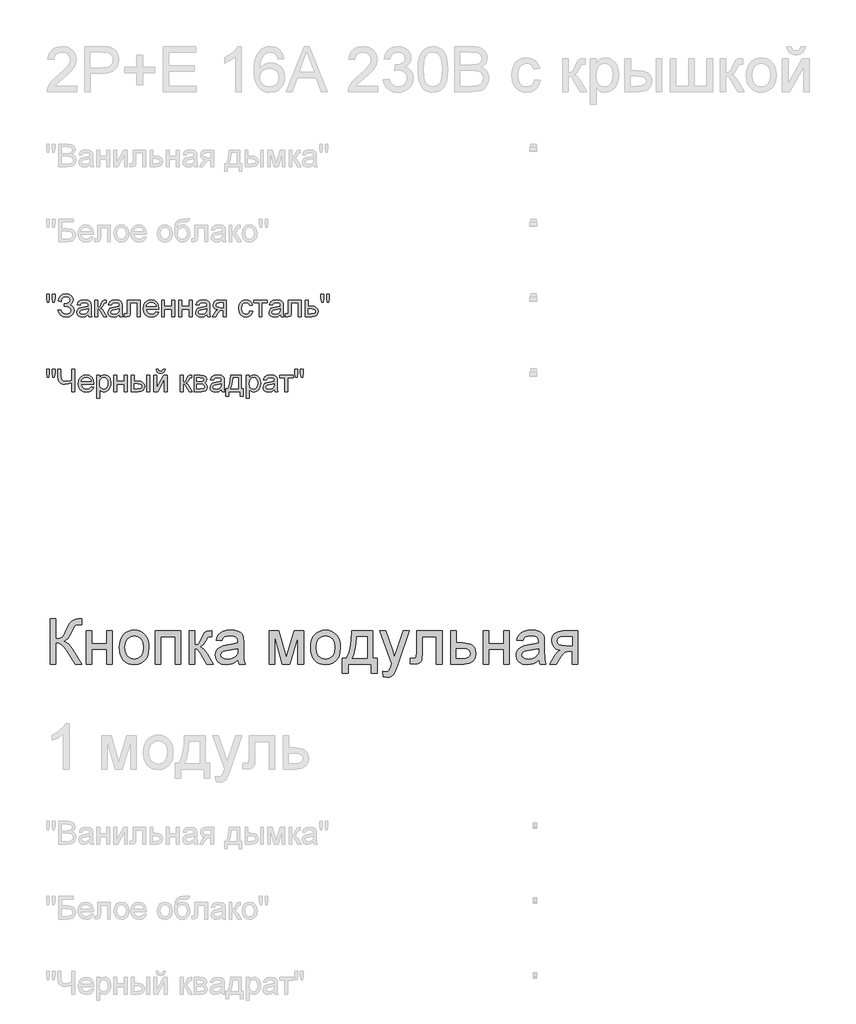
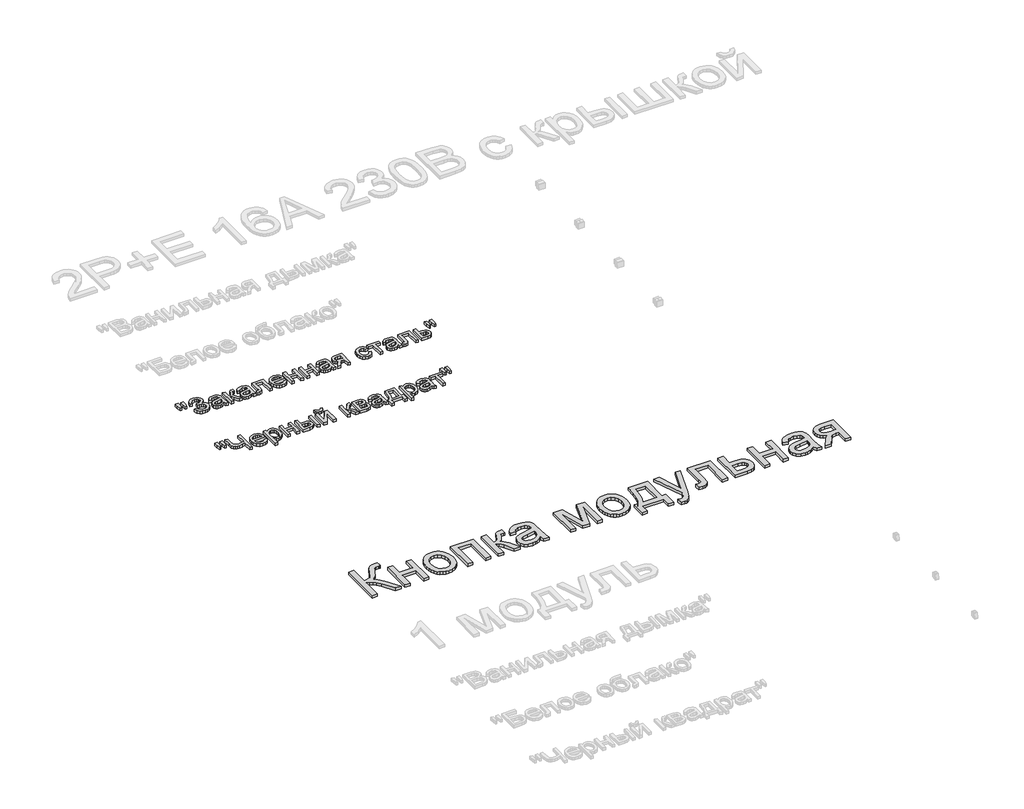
# One storey, part 46 of 168: 3 proxies.
"""IFC4 building model written with IfcOpenShell, lengths in millimetres."""

from ifc_helpers import new_model, si_unit, origin, origin_with_axes, place, context, project, spatial, polyline, outline, extrude, element, save

model = new_model("IFC4")

# Units and contexts
model_context = context("Model", 3, world=origin())
ifc_project = project(units=[si_unit("LENGTHUNIT", "METRE", prefix="MILLI")], contexts=[model_context])

# Site, building, storey
site = spatial("IfcSite", under=ifc_project)
building = spatial("IfcBuilding", under=site)
storey = spatial("IfcBuildingStorey", under=building, Name="Этаж 01", Elevation=0.0)

# Proxies
placement = place(None, origin())
element("IfcBuildingElementProxy", 1, Name="300 мм Arial 2", ObjectType="300 мм Arial 2", at=placement, inside=storey, context=model_context, shape_type="SweptSolid", body=[
    extrude(outline(polyline([(41999.0945017, -38481.2692868), (42036.765618, -38481.2692868), (42036.765618, -38613.1181939), (42062.2690373, -38610.6257934), (42078.8881064, -38603.1485918), (42092.3249963, -38585.5546354), (42108.2818778, -38552.7119703), (42129.0672106, -38510.5894818), (42139.0919949, -38499.1759429), (42152.6116582, -38489.7305727), (42168.6605103, -38483.3846083), (42186.2728608, -38481.2692868), (42210.9945309, -38481.7107452), (42210.9945309, -38519.3818615), (42202.6803978, -38519.1611323), (42194.3662647, -38518.9404031), (42177.1125991, -38521.2028774), (42164.9357051, -38527.9903002), (42154.4510682, -38542.2457275), (42142.5684798, -38566.7650625), (42127.9911557, -38597.2992681), (42115.8970351, -38614.0011107), (42089.8877781, -38629.5993073), (42104.4788977, -38635.807316), (42118.9688498, -38646.6322437), (42147.6452513, -38682.1328562), (42210.9945309, -38782.6382173), (42167.2901499, -38782.6382173), (42113.7265314, -38697.7310528), (42093.0423662, -38670.4985881), (42076.0186268, -38653.4012724), (42058.6086114, -38644.3789664), (42036.765618, -38641.3715311), (42036.765618, -38782.6382173), (41999.0945017, -38782.6382173), (41999.0945017, -38481.2692868)])), origin_with_axes(), (0.0, 0.0, 1.0), 20.0),
    extrude(outline(polyline([(42239.2478681, -38561.320409), (42276.9189844, -38561.320409), (42276.9189844, -38646.0804207), (42375.8056647, -38646.0804207), (42375.8056647, -38561.320409), (42413.476781, -38561.320409), (42413.476781, -38782.6382173), (42375.8056647, -38782.6382173), (42375.8056647, -38683.751537), (42276.9189844, -38683.751537), (42276.9189844, -38782.6382173), (42239.2478681, -38782.6382173), (42239.2478681, -38561.320409)])), origin_with_axes(), (0.0, 0.0, 1.0), 20.0),
    extrude(outline(polyline([(42460.5656764, -38671.9793131), (42462.602823, -38643.3167072), (42468.7142626, -38618.6180297), (42478.8999953, -38597.8832808), (42493.1600212, -38581.1124603), (42507.516616, -38570.3932987), (42523.363133, -38562.7367547), (42540.699572, -38558.1428282), (42559.5259331, -38556.6115194), (42580.3089666, -38558.4762213), (42599.1008387, -38564.0703269), (42615.9015496, -38573.3938362), (42630.7110992, -38586.4467493), (42642.798322, -38602.7876076), (42651.4320526, -38621.9749529), (42656.6122909, -38644.0087852), (42658.339037, -38668.8891044), (42655.2856165, -38706.9464968), (42646.1253548, -38735.9172039), (42631.1249664, -38757.6130446), (42610.5511658, -38773.8458376), (42586.1146043, -38783.9717895), (42559.5259331, -38787.3471068), (42538.439397, -38785.4893027), (42519.4727809, -38779.9158905), (42502.6260848, -38770.6268701), (42487.8993086, -38757.6222416), (42475.9408445, -38741.1227341), (42467.3990845, -38721.3490769), (42462.2740284, -38698.3012699), (42460.5656764, -38671.9793131)]), holes=[polyline([(42498.2367927, -38671.9057367), (42502.5961944, -38705.9992006), (42515.6743993, -38730.2886094), (42535.356086, -38744.8291452), (42559.5259331, -38749.6759905), (42583.5854156, -38744.8015541), (42603.2303141, -38730.1782448), (42616.3085191, -38705.5669393), (42620.6679207, -38670.7285143), (42616.2809279, -38637.6283318), (42603.1199495, -38613.6700169), (42583.4474598, -38599.129481), (42559.5259331, -38594.2826358), (42535.356086, -38599.1110869), (42515.6743993, -38613.5964405), (42502.5961944, -38637.8306669), (42498.2367927, -38671.9057367)])]), origin_with_axes(), (0.0, 0.0, 1.0), 20.0),
    extrude(outline(polyline([(42700.7190429, -38561.320409), (42870.2390662, -38561.320409), (42870.2390662, -38782.6382173), (42832.5679499, -38782.6382173), (42832.5679499, -38598.9915253), (42738.3901592, -38598.9915253), (42738.3901592, -38782.6382173), (42700.7190429, -38782.6382173), (42700.7190429, -38561.320409)])), origin_with_axes(), (0.0, 0.0, 1.0), 20.0),
    extrude(outline(polyline([(42926.7457407, -38561.320409), (42964.416857, -38561.320409), (42964.416857, -38655.4981997), (42979.7391421, -38653.8059426), (42989.6535619, -38648.729171), (42998.4275475, -38635.4854192), (43010.32853, -38609.2922212), (43027.5086192, -38575.2631366), (43042.6653574, -38564.1898885), (43070.2197188, -38561.320409), (43077.4302059, -38561.320409), (43077.4302059, -38599.2122545), (43067.2766629, -38598.9915253), (43048.8825631, -38602.9646508), (43035.9331169, -38627.7598973), (43020.7395905, -38654.5784948), (42999.4392229, -38667.711882), (43011.3769937, -38673.0139812), (43023.2043998, -38682.3719795), (43046.5281183, -38713.255673), (43086.847985, -38782.6382173), (43044.0265208, -38782.6382173), (43004.5159945, -38714.727201), (42984.6503667, -38685.9956171), (42975.3613464, -38680.7808899), (42964.416857, -38679.0426474), (42964.416857, -38782.6382173), (42926.7457407, -38782.6382173), (42926.7457407, -38561.320409)])), origin_with_axes(), (0.0, 0.0, 1.0), 20.0),
    extrude(outline(polyline([(43251.6591188, -38754.3848801), (43233.6604922, -38769.8175297), (43215.1284367, -38779.9158905), (43195.639888, -38785.4893027), (43174.7717818, -38787.3471068), (43143.2902801, -38782.8773406), (43120.0677292, -38769.4680419), (43105.7479225, -38749.1057734), (43100.9746536, -38723.7770981), (43102.7772754, -38708.1605074), (43108.1851407, -38693.9786564), (43116.526865, -38681.8385506), (43127.1310635, -38672.3471951), (43153.5082025, -38659.9863601), (43186.1025473, -38654.3209774), (43224.6197922, -38648.361289), (43251.4383896, -38641.3715311), (43251.6591188, -38632.9838216), (43249.0655508, -38616.1716145), (43241.2848466, -38605.1719428), (43223.8840282, -38597.0049625), (43199.6406047, -38594.2826358), (43177.199803, -38596.0944546), (43161.52803, -38601.5299111), (43150.8410581, -38611.5822866), (43143.3546595, -38627.2448625), (43105.6835431, -38622.535973), (43112.2226456, -38601.9345812), (43121.9807155, -38585.7477735), (43135.8682609, -38573.3685443), (43154.7957895, -38564.1898885), (43177.9447641, -38558.5061117), (43204.4966471, -38556.6115194), (43229.9632782, -38558.2853825), (43250.1508027, -38563.3069718), (43265.3719202, -38570.8577497), (43275.9393305, -38580.1191789), (43282.9474825, -38591.569506), (43287.4908252, -38605.6869776), (43289.3302351, -38638.6492044), (43289.3302351, -38685.5173706), (43291.2432215, -38750.9635775), (43298.7480142, -38782.6382173), (43261.0768979, -38782.6382173), (43251.6591188, -38754.3848801)]), holes=[polyline([(43251.6591188, -38679.0426474), (43190.8850132, -38690.5941421), (43158.4746095, -38696.7009832), (43143.7961178, -38706.6337971), (43138.6457699, -38721.1283477), (43141.4508701, -38732.3303544), (43149.8661708, -38741.5090102), (43163.7077308, -38747.6342454), (43182.7916093, -38749.6759905), (43203.0251191, -38747.4227133), (43220.904184, -38740.6628816), (43235.3987346, -38730.7024766), (43245.4787013, -38718.8474793), (43249.9484676, -38706.6337971), (43251.4383896, -38689.7112253), (43251.6591188, -38679.0426474)])]), origin_with_axes(), (0.0, 0.0, 1.0), 20.0),
    extrude(outline(polyline([(43458.8502585, -38561.320409), (43523.6710661, -38561.320409), (43573.629441, -38738.4923779), (43627.4873651, -38561.320409), (43689.5858459, -38561.320409), (43689.5858459, -38782.6382173), (43651.9147296, -38782.6382173), (43651.9147296, -38604.4361788), (43597.7624999, -38782.6382173), (43548.3191597, -38782.6382173), (43496.5213748, -38595.9013165), (43496.5213748, -38782.6382173), (43458.8502585, -38782.6382173), (43458.8502585, -38561.320409)])), origin_with_axes(), (0.0, 0.0, 1.0), 20.0),
    extrude(outline(polyline([(43736.6747413, -38671.9793131), (43738.7118878, -38643.3167072), (43744.8233275, -38618.6180297), (43755.0090602, -38597.8832808), (43769.269086, -38581.1124603), (43783.6256809, -38570.3932987), (43799.4721979, -38562.7367547), (43816.8086369, -38558.1428282), (43835.634998, -38556.6115194), (43856.4180314, -38558.4762213), (43875.2099036, -38564.0703269), (43892.0106145, -38573.3938362), (43906.820164, -38586.4467493), (43918.9073869, -38602.7876076), (43927.5411174, -38621.9749529), (43932.7213558, -38644.0087852), (43934.4481019, -38668.8891044), (43931.3946813, -38706.9464968), (43922.2344196, -38735.9172039), (43907.2340313, -38757.6130446), (43886.6602307, -38773.8458376), (43862.2236692, -38783.9717895), (43835.634998, -38787.3471068), (43814.5484619, -38785.4893027), (43795.5818458, -38779.9158905), (43778.7351496, -38770.6268701), (43764.0083735, -38757.6222416), (43752.0499094, -38741.1227341), (43743.5081493, -38721.3490769), (43738.3830933, -38698.3012699), (43736.6747413, -38671.9793131)]), holes=[polyline([(43774.3458576, -38671.9057367), (43778.7052592, -38705.9992006), (43791.7834642, -38730.2886094), (43811.4651509, -38744.8291452), (43835.634998, -38749.6759905), (43859.6944805, -38744.8015541), (43879.339379, -38730.1782448), (43892.4175839, -38705.5669393), (43896.7769856, -38670.7285143), (43892.3899928, -38637.6283318), (43879.2290144, -38613.6700169), (43859.5565247, -38599.129481), (43835.634998, -38594.2826358), (43811.4651509, -38599.1110869), (43791.7834642, -38613.5964405), (43778.7052592, -38637.8306669), (43774.3458576, -38671.9057367)])]), origin_with_axes(), (0.0, 0.0, 1.0), 20.0),
    extrude(outline(polyline([(44009.7903345, -38561.320409), (44151.0570206, -38561.320409), (44151.0570206, -38744.967101), (44179.3103579, -38744.967101), (44179.3103579, -38843.8537813), (44141.6392416, -38843.8537813), (44141.6392416, -38782.6382173), (43986.2458868, -38782.6382173), (43986.2458868, -38843.8537813), (43948.5747705, -38843.8537813), (43948.5747705, -38744.967101), (43972.1192182, -38744.967101), (43989.234928, -38714.0374222), (44001.218684, -38673.1197473), (44008.0704862, -38622.2140762), (44009.7903345, -38561.320409)]), holes=[polyline([(44042.7525613, -38598.9915253), (44039.6623525, -38645.1147304), (44033.9233934, -38684.8183948), (44025.5356839, -38718.1025183), (44014.499224, -38744.967101), (44113.3859043, -38744.967101), (44113.3859043, -38598.9915253), (44042.7525613, -38598.9915253)])]), origin_with_axes(), (0.0, 0.0, 1.0), 20.0),
    extrude(outline(polyline([(44221.6903637, -38867.398229), (44216.9814742, -38831.1250642), (44236.1113379, -38834.4360022), (44253.9904029, -38830.2789357), (44264.9532864, -38818.6906528), (44275.2539822, -38790.9523504), (44278.1970382, -38781.8288769), (44198.145916, -38561.320409), (44237.8771715, -38561.320409), (44280.3307537, -38684.1929954), (44295.11961, -38733.3420299), (44309.9084662, -38689.9319545), (44353.5392708, -38561.320409), (44392.9762207, -38561.320409), (44315.9417309, -38787.935718), (44295.9289503, -38837.0847526), (44285.6834368, -38852.7749197), (44274.0767598, -38863.6458326), (44260.5938847, -38869.991797), (44244.7197766, -38872.1071185), (44221.6903637, -38867.398229)])), origin_with_axes(), (0.0, 0.0, 1.0), 20.0),
    extrude(outline(polyline([(44443.008172, -38561.320409), (44612.5281954, -38561.320409), (44612.5281954, -38782.4174881), (44574.8570791, -38782.4174881), (44574.8570791, -38598.9915253), (44480.6792883, -38598.9915253), (44480.6792883, -38704.5736579), (44478.1409026, -38753.2812341), (44473.3860278, -38764.3084969), (44464.1981749, -38773.8458376), (44450.2554473, -38780.4401224), (44431.2359482, -38782.6382173), (44400.6281662, -38780.7252309), (44400.6281662, -38744.967101), (44417.4771616, -38744.967101), (44434.5100979, -38742.6494444), (44441.3159148, -38735.2918045), (44443.008172, -38702.4399423), (44443.008172, -38561.320409)])), origin_with_axes(), (0.0, 0.0, 1.0), 20.0),
    extrude(outline(polyline([(44669.0348699, -38561.320409), (44706.7059862, -38561.320409), (44706.7059862, -38641.3715311), (44750.1160616, -38641.3715311), (44787.7503897, -38646.0896177), (44802.8979308, -38651.987226), (44815.5990567, -38660.2438775), (44825.6422352, -38670.5744638), (44832.8159341, -38682.6938762), (44838.5548932, -38712.2991798), (44833.6712597, -38739.255733), (44819.0203593, -38762.0000374), (44807.7884621, -38771.0292411), (44793.6273046, -38777.4786723), (44756.5172083, -38782.6382173), (44669.0348699, -38782.6382173), (44669.0348699, -38561.320409)]), holes=[polyline([(44706.7059862, -38744.967101), (44741.8755049, -38744.967101), (44769.1631519, -38742.9897353), (44787.3089313, -38737.0576381), (44797.4900655, -38726.9316862), (44800.8837769, -38712.3727562), (44798.3729823, -38700.0671035), (44790.8405985, -38689.1961905), (44774.6997759, -38681.5810332), (44746.3636652, -38679.0426474), (44706.7059862, -38679.0426474), (44706.7059862, -38744.967101)])]), origin_with_axes(), (0.0, 0.0, 1.0), 20.0),
    extrude(outline(polyline([(44885.6437886, -38561.320409), (44923.3149049, -38561.320409), (44923.3149049, -38646.0804207), (45022.2015852, -38646.0804207), (45022.2015852, -38561.320409), (45059.8727015, -38561.320409), (45059.8727015, -38782.6382173), (45022.2015852, -38782.6382173), (45022.2015852, -38683.751537), (44923.3149049, -38683.751537), (44923.3149049, -38782.6382173), (44885.6437886, -38782.6382173), (44885.6437886, -38561.320409)])), origin_with_axes(), (0.0, 0.0, 1.0), 20.0),
    extrude(outline(polyline([(45257.6460621, -38754.3848801), (45239.6474355, -38769.8175297), (45221.11538, -38779.9158905), (45201.6268313, -38785.4893027), (45180.7587251, -38787.3471068), (45149.2772234, -38782.8773406), (45126.0546725, -38769.4680419), (45111.7348658, -38749.1057734), (45106.9615969, -38723.7770981), (45108.7642187, -38708.1605074), (45114.172084, -38693.9786564), (45122.5138083, -38681.8385506), (45133.1180068, -38672.3471951), (45159.4951458, -38659.9863601), (45192.0894906, -38654.3209774), (45230.6067355, -38648.361289), (45257.4253329, -38641.3715311), (45257.6460621, -38632.9838216), (45255.0524941, -38616.1716145), (45247.2717899, -38605.1719428), (45229.8709715, -38597.0049625), (45205.627548, -38594.2826358), (45183.1867463, -38596.0944546), (45167.5149733, -38601.5299111), (45156.8280014, -38611.5822866), (45149.3416028, -38627.2448625), (45111.6704864, -38622.535973), (45118.2095889, -38601.9345812), (45127.9676588, -38585.7477735), (45141.8552042, -38573.3685443), (45160.7827328, -38564.1898885), (45183.9317074, -38558.5061117), (45210.4835904, -38556.6115194), (45235.9502215, -38558.2853825), (45256.137746, -38563.3069718), (45271.3588635, -38570.8577497), (45281.9262738, -38580.1191789), (45288.9344258, -38591.569506), (45293.4777685, -38605.6869776), (45295.3171784, -38638.6492044), (45295.3171784, -38685.5173706), (45297.2301648, -38750.9635775), (45304.7349575, -38782.6382173), (45267.0638412, -38782.6382173), (45257.6460621, -38754.3848801)]), holes=[polyline([(45257.6460621, -38679.0426474), (45196.8719565, -38690.5941421), (45164.4615528, -38696.7009832), (45149.7830611, -38706.6337971), (45144.6327132, -38721.1283477), (45147.4378134, -38732.3303544), (45155.8531141, -38741.5090102), (45169.6946741, -38747.6342454), (45188.7785526, -38749.6759905), (45209.0120624, -38747.4227133), (45226.8911273, -38740.6628816), (45241.3856779, -38730.7024766), (45251.4656446, -38718.8474793), (45255.9354109, -38706.6337971), (45257.4253329, -38689.7112253), (45257.6460621, -38679.0426474)])]), origin_with_axes(), (0.0, 0.0, 1.0), 20.0),
    extrude(outline(polyline([(45516.6349867, -38561.320409), (45516.6349867, -38782.6382173), (45478.9638704, -38782.6382173), (45478.9638704, -38697.8782056), (45458.4360551, -38697.8782056), (45430.4770235, -38702.6606715), (45419.3118049, -38713.0901261), (45404.210249, -38734.8135579), (45374.1910782, -38782.6382173), (45330.63385, -38782.6382173), (45368.4521191, -38722.1584173), (45385.1539617, -38700.4533796), (45400.5314291, -38690.8148713), (45374.7796894, -38682.9238025), (45356.6798952, -38667.9326112), (45345.9745292, -38647.993407), (45342.4060738, -38625.2582997), (45347.2805103, -38599.4697719), (45361.9038196, -38579.0523211), (45385.760967, -38565.753387), (45418.3369176, -38561.320409), (45516.6349867, -38561.320409)]), holes=[polyline([(45478.9638704, -38598.9915253), (45429.2998011, -38598.9915253), (45403.649229, -38601.1712261), (45389.090299, -38607.7103286), (45382.3304674, -38617.1740929), (45380.0771901, -38628.1277793), (45383.3973251, -38642.4843742), (45393.3577302, -38652.4447792), (45411.761027, -38658.2665118), (45440.4098373, -38660.2070893), (45478.9638704, -38660.2070893), (45478.9638704, -38598.9915253)])]), origin_with_axes(), (0.0, 0.0, 1.0), 20.0),
])
element("IfcBuildingElementProxy", 2, Name="150", ObjectType="150", at=placement, inside=storey, context=model_context, shape_type="SweptSolid", body=[
    extrude(outline(polyline([(41980.1485789, -36370.3300622), (41975.550054, -36341.2305964), (41975.550054, -36316.1778325), (41994.3856121, -36316.1778325), (41994.3856121, -36341.2305964), (41990.2653338, -36370.3300622), (41980.1485789, -36370.3300622)])), origin_with_axes(), (0.0, 0.0, 1.0), 20.0),
    extrude(outline(polyline([(42017.7093306, -36370.3300622), (42013.2211703, -36341.2305964), (42013.2211703, -36316.1778325), (42032.0567284, -36316.1778325), (42032.0567284, -36341.2305964), (42027.6421445, -36370.3300622), (42017.7093306, -36370.3300622)])), origin_with_axes(), (0.0, 0.0, 1.0), 20.0),
    extrude(outline(polyline([(42050.8922866, -36424.4822919), (42069.7278447, -36419.7734024), (42081.2977335, -36440.172459), (42092.2284273, -36447.829003), (42106.2217387, -36450.3811843), (42120.398991, -36448.4635995), (42131.2193202, -36442.7108448), (42138.0757209, -36434.2449603), (42140.3611878, -36424.1879863), (42137.8641888, -36413.6527657), (42130.3731916, -36405.517975), (42118.5779752, -36400.3170433), (42103.1683181, -36398.5833994), (42093.2722924, -36398.5833994), (42093.2722924, -36379.7478413), (42114.591054, -36378.221131), (42127.6324708, -36370.4220327), (42133.2978535, -36356.1666054), (42131.4124583, -36347.2960508), (42125.7562726, -36339.6670979), (42116.8811195, -36334.4109839), (42105.3388219, -36332.6589459), (42086.1169876, -36338.0484171), (42075.117316, -36352.3406326), (42072.0822895, -36365.6211727), (42053.2467313, -36360.9122831), (42059.0983543, -36340.3108914), (42069.7002536, -36325.5956116), (42085.0524291, -36316.7664437), (42105.1548809, -36313.8233877), (42124.5468605, -36316.8814068), (42139.4598769, -36326.0554641), (42148.965028, -36339.3222085), (42152.1334117, -36354.6582892), (42147.2037929, -36373.3007093), (42132.4149367, -36387.2158458), (42142.8903765, -36392.0396984), (42151.5080123, -36400.1836861), (42157.2745625, -36410.948833), (42159.196746, -36423.6361633), (42155.508729, -36441.4738415), (42144.444678, -36456.1385376), (42127.2921799, -36465.9471913), (42105.3388219, -36469.2167425), (42086.2365493, -36466.4208393), (42070.7947025, -36458.0331298), (42059.0132816, -36444.053614), (42050.8922866, -36424.4822919)])), origin_with_axes(), (0.0, 0.0, 1.0), 20.0),
    extrude(outline(polyline([(42253.3745367, -36452.7356291), (42235.1091957, -36465.5011344), (42214.9308682, -36469.2167425), (42199.1901174, -36466.9818594), (42187.5788419, -36460.27721), (42180.4189386, -36450.0960758), (42178.0323041, -36437.4317381), (42181.6375477, -36422.5325173), (42191.110509, -36411.7167867), (42204.2990786, -36405.5363691), (42220.596251, -36402.7036778), (42253.2641721, -36396.2289547), (42253.3745367, -36392.0350999), (42252.0777527, -36383.6289963), (42248.1874006, -36378.1291605), (42239.4869914, -36374.0456704), (42227.3652797, -36372.684507), (42208.3089923, -36376.3081446), (42199.222307, -36389.1656204), (42180.3867489, -36386.8111756), (42188.5353351, -36368.4170758), (42204.9428721, -36357.6381334), (42229.7933008, -36353.8489488), (42252.6203786, -36357.196675), (42265.5146426, -36365.6027786), (42271.2903899, -36378.3866779), (42272.2100949, -36394.8677913), (42272.2100949, -36418.3018744), (42273.1665881, -36451.0249778), (42276.9189844, -36466.8622977), (42258.0834263, -36466.8622977), (42253.3745367, -36452.7356291)]), holes=[polyline([(42253.3745367, -36415.0645128), (42222.9874839, -36420.8402601), (42206.782282, -36423.8936807), (42199.4430362, -36428.8600876), (42196.8678623, -36436.1073629), (42202.4780627, -36446.2976942), (42218.940782, -36450.3811843), (42237.9970693, -36445.8746299), (42250.284328, -36434.9669288), (42253.2641721, -36420.3988017), (42253.3745367, -36415.0645128)])]), origin_with_axes(), (0.0, 0.0, 1.0), 20.0),
    extrude(outline(polyline([(42298.1089873, -36356.2033936), (42316.9445455, -36356.2033936), (42316.9445455, -36403.292289), (42329.5628979, -36399.9077746), (42339.900382, -36380.1892997), (42348.4904266, -36363.1747574), (42356.0687957, -36357.6381334), (42369.8459764, -36356.2033936), (42373.4512199, -36356.2033936), (42373.4512199, -36375.1493163), (42368.3744484, -36375.0389517), (42359.1773985, -36377.0255145), (42352.7026754, -36389.4231377), (42345.1059122, -36402.8324365), (42334.4557285, -36409.3991301), (42346.3383169, -36416.7291788), (42358.0001762, -36432.1710256), (42378.1601095, -36466.8622977), (42356.7493774, -36466.8622977), (42336.9941142, -36432.9067896), (42327.0613004, -36418.5409977), (42316.9445455, -36415.0645128), (42316.9445455, -36466.8622977), (42298.1089873, -36466.8622977), (42298.1089873, -36356.2033936)])), origin_with_axes(), (0.0, 0.0, 1.0), 20.0),
    extrude(outline(polyline([(42460.5656764, -36452.7356291), (42442.3003353, -36465.5011344), (42422.1220079, -36469.2167425), (42406.381257, -36466.9818594), (42394.7699816, -36460.27721), (42387.6100782, -36450.0960758), (42385.2234438, -36437.4317381), (42388.8286873, -36422.5325173), (42398.3016487, -36411.7167867), (42411.4902183, -36405.5363691), (42427.7873906, -36402.7036778), (42460.4553118, -36396.2289547), (42460.5656764, -36392.0350999), (42459.2688924, -36383.6289963), (42455.3785403, -36378.1291605), (42446.6781311, -36374.0456704), (42434.5564193, -36372.684507), (42415.500132, -36376.3081446), (42406.4134467, -36389.1656204), (42387.5778886, -36386.8111756), (42395.7264748, -36368.4170758), (42412.1340117, -36357.6381334), (42436.9844405, -36353.8489488), (42459.8115183, -36357.196675), (42472.7057822, -36365.6027786), (42478.4815296, -36378.3866779), (42479.4012346, -36394.8677913), (42479.4012346, -36418.3018744), (42480.3577277, -36451.0249778), (42484.1101241, -36466.8622977), (42465.2745659, -36466.8622977), (42460.5656764, -36452.7356291)]), holes=[polyline([(42460.5656764, -36415.0645128), (42430.1786236, -36420.8402601), (42413.9734217, -36423.8936807), (42406.6341759, -36428.8600876), (42404.0590019, -36436.1073629), (42409.6692024, -36446.2976942), (42426.1319217, -36450.3811843), (42445.188209, -36445.8746299), (42457.4754676, -36434.9669288), (42460.4553118, -36420.3988017), (42460.5656764, -36415.0645128)])]), origin_with_axes(), (0.0, 0.0, 1.0), 20.0),
    extrude(outline(polyline([(42514.7179061, -36356.2033936), (42599.4779178, -36356.2033936), (42599.4779178, -36466.7519331), (42580.6423596, -36466.7519331), (42580.6423596, -36375.0389517), (42533.5534643, -36375.0389517), (42533.5534643, -36427.830018), (42532.2842714, -36452.1838061), (42525.3129076, -36462.4661079), (42508.8317942, -36466.8622977), (42493.5279032, -36465.9058045), (42493.5279032, -36448.0267396), (42501.9524009, -36448.0267396), (42510.4688691, -36446.8679113), (42513.8717775, -36443.1890913), (42514.7179061, -36426.7631603), (42514.7179061, -36356.2033936)])), origin_with_axes(), (0.0, 0.0, 1.0), 20.0),
    extrude(outline(polyline([(42705.2072032, -36433.900071), (42723.6748794, -36436.2545157), (42717.0208138, -36450.1696522), (42706.4028197, -36460.5715156), (42692.0600204, -36467.0554358), (42674.2315392, -36469.2167425), (42652.1310283, -36465.4873388), (42635.1256831, -36454.2991276), (42624.2823613, -36436.3786759), (42620.6679207, -36412.4525506), (42624.3191495, -36387.7216835), (42635.2728359, -36369.2264162), (42652.0482549, -36357.6933157), (42673.1646814, -36353.8489488), (42693.6235189, -36357.6841186), (42709.971275, -36369.189628), (42720.6904367, -36387.6481071), (42724.2634906, -36412.342186), (42724.153126, -36417.4189576), (42639.5034789, -36417.4189576), (42642.763833, -36431.518035), (42650.3376036, -36441.8831103), (42661.2682974, -36448.2566658), (42674.5994212, -36450.3811843), (42693.0670974, -36446.444847), (42705.2072032, -36433.900071)]), holes=[polyline([(42639.5034789, -36398.5833994), (42705.4279324, -36398.5833994), (42702.8803496, -36388.6321915), (42697.8863515, -36381.5136749), (42686.9050739, -36374.8917989), (42673.091105, -36372.684507), (42660.3945777, -36374.445742), (42649.8961452, -36379.7294472), (42642.5982861, -36387.9654053), (42639.5034789, -36398.5833994)])]), origin_with_axes(), (0.0, 0.0, 1.0), 20.0),
    extrude(outline(polyline([(42743.0990487, -36356.2033936), (42761.9346069, -36356.2033936), (42761.9346069, -36398.5833994), (42811.377947, -36398.5833994), (42811.377947, -36356.2033936), (42830.2135052, -36356.2033936), (42830.2135052, -36466.8622977), (42811.377947, -36466.8622977), (42811.377947, -36417.4189576), (42761.9346069, -36417.4189576), (42761.9346069, -36466.8622977), (42743.0990487, -36466.8622977), (42743.0990487, -36356.2033936)])), origin_with_axes(), (0.0, 0.0, 1.0), 20.0),
    extrude(outline(polyline([(42858.4668424, -36356.2033936), (42877.3024005, -36356.2033936), (42877.3024005, -36398.5833994), (42926.7457407, -36398.5833994), (42926.7457407, -36356.2033936), (42945.5812988, -36356.2033936), (42945.5812988, -36466.8622977), (42926.7457407, -36466.8622977), (42926.7457407, -36417.4189576), (42877.3024005, -36417.4189576), (42877.3024005, -36466.8622977), (42858.4668424, -36466.8622977), (42858.4668424, -36356.2033936)])), origin_with_axes(), (0.0, 0.0, 1.0), 20.0),
    extrude(outline(polyline([(43044.4679792, -36452.7356291), (43026.2026381, -36465.5011344), (43006.0243107, -36469.2167425), (42990.2835598, -36466.9818594), (42978.6722843, -36460.27721), (42971.512381, -36450.0960758), (42969.1257465, -36437.4317381), (42972.7309901, -36422.5325173), (42982.2039515, -36411.7167867), (42995.392521, -36405.5363691), (43011.6896934, -36402.7036778), (43044.3576146, -36396.2289547), (43044.4679792, -36392.0350999), (43043.1711951, -36383.6289963), (43039.280843, -36378.1291605), (43030.5804338, -36374.0456704), (43018.4587221, -36372.684507), (42999.4024347, -36376.3081446), (42990.3157495, -36389.1656204), (42971.4801913, -36386.8111756), (42979.6287775, -36368.4170758), (42996.0363145, -36357.6381334), (43020.8867433, -36353.8489488), (43043.7138211, -36357.196675), (43056.608085, -36365.6027786), (43062.3838323, -36378.3866779), (43063.3035373, -36394.8677913), (43063.3035373, -36418.3018744), (43064.2600305, -36451.0249778), (43068.0124268, -36466.8622977), (43049.1768687, -36466.8622977), (43044.4679792, -36452.7356291)]), holes=[polyline([(43044.4679792, -36415.0645128), (43014.0809264, -36420.8402601), (42997.8757245, -36423.8936807), (42990.5364787, -36428.8600876), (42987.9613047, -36436.1073629), (42993.5715051, -36446.2976942), (43010.0342244, -36450.3811843), (43029.0905118, -36445.8746299), (43041.3777704, -36434.9669288), (43044.3576146, -36420.3988017), (43044.4679792, -36415.0645128)])]), origin_with_axes(), (0.0, 0.0, 1.0), 20.0),
    extrude(outline(polyline([(43173.9624415, -36356.2033936), (43173.9624415, -36466.8622977), (43155.1268833, -36466.8622977), (43155.1268833, -36424.4822919), (43144.8629756, -36424.4822919), (43130.8834598, -36426.8735249), (43117.7500726, -36442.949968), (43102.7404872, -36466.8622977), (43080.9618731, -36466.8622977), (43099.8710076, -36436.6223977), (43108.2219289, -36425.7698789), (43115.9106626, -36420.9506247), (43103.0347928, -36417.0050903), (43093.9848957, -36409.5094947), (43088.6322127, -36399.5398926), (43086.847985, -36388.172339), (43089.2852032, -36375.278075), (43096.5968579, -36365.0693497), (43108.5254316, -36358.4198826), (43124.8134069, -36356.2033936), (43173.9624415, -36356.2033936)]), holes=[polyline([(43155.1268833, -36375.0389517), (43130.2948486, -36375.0389517), (43117.4695626, -36376.1288021), (43110.1900976, -36379.3983534), (43105.6835431, -36389.6070787), (43107.3436107, -36396.7853762), (43112.3238132, -36401.7655787), (43135.8498668, -36405.6467337), (43155.1268833, -36405.6467337), (43155.1268833, -36375.0389517)])]), origin_with_axes(), (0.0, 0.0, 1.0), 20.0),
    extrude(outline(polyline([(43331.710241, -36426.8367367), (43350.5457991, -36429.1911814), (43345.2942837, -36445.9436078), (43335.4258491, -36458.6033469), (43321.8693976, -36466.5633936), (43305.5538311, -36469.2167425), (43285.518058, -36465.5149299), (43269.8508835, -36454.4094922), (43259.7387272, -36436.387873), (43256.3680084, -36411.9375159), (43257.8073467, -36395.1758924), (43262.1253616, -36380.6491522), (43269.391031, -36368.918315), (43279.6733328, -36360.5444011), (43291.974387, -36355.5228119), (43305.2963137, -36353.8489488), (43321.2118085, -36356.1482113), (43333.9359271, -36363.0459987), (43343.0639991, -36374.174429), (43348.1913544, -36389.1656204), (43329.3557962, -36391.5200651), (43320.6185988, -36377.4117906), (43305.4434665, -36372.684507), (43293.271171, -36375.0113606), (43283.6096701, -36381.9919214), (43277.3050924, -36394.0032686), (43275.2035665, -36411.4224811), (43277.2591072, -36429.0762183), (43283.4257291, -36441.1289522), (43292.9124861, -36448.0681263), (43304.9284317, -36450.3811843), (43314.6819031, -36448.9372475), (43322.678738, -36444.605437), (43328.4958721, -36437.2753883), (43331.710241, -36426.8367367)])), origin_with_axes(), (0.0, 0.0, 1.0), 20.0),
    extrude(outline(polyline([(43357.6091334, -36356.2033936), (43447.0780347, -36356.2033936), (43447.0780347, -36375.0389517), (43411.7613631, -36375.0389517), (43411.7613631, -36466.8622977), (43392.925805, -36466.8622977), (43392.925805, -36375.0389517), (43357.6091334, -36375.0389517), (43357.6091334, -36356.2033936)])), origin_with_axes(), (0.0, 0.0, 1.0), 20.0),
    extrude(outline(polyline([(43534.1924911, -36452.7356291), (43515.9271501, -36465.5011344), (43495.7488226, -36469.2167425), (43480.0080718, -36466.9818594), (43468.3967963, -36460.27721), (43461.236893, -36450.0960758), (43458.8502585, -36437.4317381), (43462.4555021, -36422.5325173), (43471.9284634, -36411.7167867), (43485.117033, -36405.5363691), (43501.4142054, -36402.7036778), (43534.0821265, -36396.2289547), (43534.1924911, -36392.0350999), (43532.8957071, -36383.6289963), (43529.005355, -36378.1291605), (43520.3049458, -36374.0456704), (43508.1832341, -36372.684507), (43489.1269467, -36376.3081446), (43480.0402614, -36389.1656204), (43461.2047033, -36386.8111756), (43469.3532895, -36368.4170758), (43485.7608265, -36357.6381334), (43510.6112552, -36353.8489488), (43533.438333, -36357.196675), (43546.332597, -36365.6027786), (43552.1083443, -36378.3866779), (43553.0280493, -36394.8677913), (43553.0280493, -36418.3018744), (43553.9845425, -36451.0249778), (43557.7369388, -36466.8622977), (43538.9013807, -36466.8622977), (43534.1924911, -36452.7356291)]), holes=[polyline([(43534.1924911, -36415.0645128), (43503.8054383, -36420.8402601), (43487.6002364, -36423.8936807), (43480.2609906, -36428.8600876), (43477.6858167, -36436.1073629), (43483.2960171, -36446.2976942), (43499.7587364, -36450.3811843), (43518.8150237, -36445.8746299), (43531.1022824, -36434.9669288), (43534.0821265, -36420.3988017), (43534.1924911, -36415.0645128)])]), origin_with_axes(), (0.0, 0.0, 1.0), 20.0),
    extrude(outline(polyline([(43588.3447208, -36356.2033936), (43673.1047325, -36356.2033936), (43673.1047325, -36466.7519331), (43654.2691744, -36466.7519331), (43654.2691744, -36375.0389517), (43607.180279, -36375.0389517), (43607.180279, -36427.830018), (43605.9110861, -36452.1838061), (43598.9397223, -36462.4661079), (43582.4586089, -36466.8622977), (43567.1547179, -36465.9058045), (43567.1547179, -36448.0267396), (43575.5792156, -36448.0267396), (43584.0956838, -36446.8679113), (43587.4985922, -36443.1890913), (43588.3447208, -36426.7631603), (43588.3447208, -36356.2033936)])), origin_with_axes(), (0.0, 0.0, 1.0), 20.0),
    extrude(outline(polyline([(43701.3580697, -36356.2033936), (43720.1936279, -36356.2033936), (43720.1936279, -36396.2289547), (43741.8986656, -36396.2289547), (43760.7158297, -36398.587998), (43774.6401632, -36405.6651278), (43783.2486019, -36416.8901272), (43786.1180814, -36431.692779), (43783.6762647, -36445.1710556), (43776.3508145, -36456.5432078), (43763.6542871, -36464.2825252), (43745.099239, -36466.8622977), (43701.3580697, -36466.8622977), (43701.3580697, -36356.2033936)]), holes=[polyline([(43720.1936279, -36448.0267396), (43737.7783873, -36448.0267396), (43760.4951005, -36444.0720081), (43765.5856676, -36439.0090322), (43767.2825233, -36431.7295672), (43762.260934, -36420.1412843), (43754.1905228, -36416.3337057), (43740.0224674, -36415.0645128), (43720.1936279, -36415.0645128), (43720.1936279, -36448.0267396)])]), origin_with_axes(), (0.0, 0.0, 1.0), 20.0),
    extrude(outline(polyline([(43809.5521645, -36370.3300622), (43804.9536396, -36341.2305964), (43804.9536396, -36316.1778325), (43823.7891977, -36316.1778325), (43823.7891977, -36341.2305964), (43819.6689194, -36370.3300622), (43809.5521645, -36370.3300622)])), origin_with_axes(), (0.0, 0.0, 1.0), 20.0),
    extrude(outline(polyline([(43847.1129162, -36370.3300622), (43842.6247559, -36341.2305964), (43842.6247559, -36316.1778325), (43861.460314, -36316.1778325), (43861.460314, -36341.2305964), (43857.0457301, -36370.3300622), (43847.1129162, -36370.3300622)])), origin_with_axes(), (0.0, 0.0, 1.0), 20.0),
])
element("IfcBuildingElementProxy", 3, Name="150", ObjectType="150", at=placement, inside=storey, context=model_context, shape_type="SweptSolid", body=[
    extrude(outline(polyline([(41980.1485789, -36870.3300622), (41975.550054, -36841.2305964), (41975.550054, -36816.1778325), (41994.3856121, -36816.1778325), (41994.3856121, -36841.2305964), (41990.2653338, -36870.3300622), (41980.1485789, -36870.3300622)])), origin_with_axes(), (0.0, 0.0, 1.0), 20.0),
    extrude(outline(polyline([(42017.7093306, -36870.3300622), (42013.2211703, -36841.2305964), (42013.2211703, -36816.1778325), (42032.0567284, -36816.1778325), (42032.0567284, -36841.2305964), (42027.6421445, -36870.3300622), (42017.7093306, -36870.3300622)])), origin_with_axes(), (0.0, 0.0, 1.0), 20.0),
    extrude(outline(polyline([(42163.9056355, -36966.8622977), (42145.0700773, -36966.8622977), (42145.0700773, -36906.5296505), (42120.0908899, -36914.6966308), (42098.4226404, -36917.4189576), (42083.7395502, -36915.556555), (42070.886673, -36909.9693472), (42060.926268, -36901.5172583), (42054.9205944, -36891.0602126), (42050.8922866, -36861.0594359), (42050.8922866, -36816.1778325), (42069.7278447, -36816.1778325), (42069.7278447, -36858.5210502), (42071.990319, -36878.8879171), (42078.7777418, -36890.8394834), (42088.7381468, -36896.6474204), (42100.5195677, -36898.5833994), (42122.2521966, -36896.2473488), (42145.0700773, -36889.2391968), (42145.0700773, -36816.1778325), (42163.9056355, -36816.1778325), (42163.9056355, -36966.8622977)])), origin_with_axes(), (0.0, 0.0, 1.0), 20.0),
    extrude(outline(polyline([(42271.9893657, -36933.900071), (42290.4570418, -36936.2545157), (42283.8029763, -36950.1696522), (42273.1849822, -36960.5715156), (42258.8421829, -36967.0554358), (42241.0137017, -36969.2167425), (42218.9131908, -36965.4873388), (42201.9078456, -36954.2991276), (42191.0645238, -36936.3786759), (42187.4500832, -36912.4525506), (42191.101312, -36887.7216835), (42202.0549984, -36869.2264162), (42218.8304174, -36857.6933157), (42239.9468439, -36853.8489488), (42260.4056814, -36857.6841186), (42276.7534375, -36869.189628), (42287.4725992, -36887.6481071), (42291.045653, -36912.342186), (42290.9352884, -36917.4189576), (42206.2856413, -36917.4189576), (42209.5459955, -36931.518035), (42217.1197661, -36941.8831103), (42228.0504599, -36948.2566658), (42241.3815837, -36950.3811843), (42259.8492598, -36946.444847), (42271.9893657, -36933.900071)]), holes=[polyline([(42206.2856413, -36898.5833994), (42272.2100949, -36898.5833994), (42269.6625121, -36888.6321915), (42264.668514, -36881.5136749), (42253.6872364, -36874.8917989), (42239.8732675, -36872.684507), (42227.1767401, -36874.445742), (42216.6783077, -36879.7294472), (42209.3804486, -36887.9654053), (42206.2856413, -36898.5833994)])]), origin_with_axes(), (0.0, 0.0, 1.0), 20.0),
    extrude(outline(polyline([(42309.8812112, -37009.2423036), (42309.8812112, -36856.2033936), (42328.7167693, -36856.2033936), (42328.7167693, -36874.6710697), (42341.739792, -36859.054479), (42359.3245513, -36853.8489488), (42372.0624654, -36855.6699647), (42383.2000928, -36861.1330123), (42392.268384, -36869.9069979), (42398.7982894, -36881.6608277), (42404.0590019, -36910.6867171), (42402.5736784, -36926.7953499), (42398.1177077, -36941.2025286), (42390.8336442, -36953.1770875), (42380.8640422, -36961.9878613), (42369.2527667, -36967.4095222), (42357.043683, -36969.2167425), (42340.6545401, -36964.3790943), (42328.7167693, -36952.1470179), (42328.7167693, -37009.2423036), (42309.8812112, -37009.2423036)]), holes=[polyline([(42328.7167693, -36912.4157624), (42330.7539159, -36929.301546), (42336.8653555, -36941.1105581), (42345.8830629, -36948.0635278), (42356.6390128, -36950.3811843), (42367.5697066, -36947.9807543), (42376.8173402, -36940.7794643), (42383.1219179, -36928.5381909), (42385.2234438, -36911.0178109), (42383.1725017, -36894.2239978), (42377.0196753, -36882.2494388), (42368.0157635, -36875.0757399), (42357.411565, -36872.684507), (42346.7659797, -36875.2274913), (42337.4171785, -36882.8564441), (42330.8918716, -36895.3322423), (42328.7167693, -36912.4157624)])]), origin_with_axes(), (0.0, 0.0, 1.0), 20.0),
    extrude(outline(polyline([(42425.2490049, -36856.2033936), (42444.084563, -36856.2033936), (42444.084563, -36898.5833994), (42493.5279032, -36898.5833994), (42493.5279032, -36856.2033936), (42512.3634613, -36856.2033936), (42512.3634613, -36966.8622977), (42493.5279032, -36966.8622977), (42493.5279032, -36917.4189576), (42444.084563, -36917.4189576), (42444.084563, -36966.8622977), (42425.2490049, -36966.8622977), (42425.2490049, -36856.2033936)])), origin_with_axes(), (0.0, 0.0, 1.0), 20.0),
    extrude(outline(polyline([(42644.2123684, -36856.2033936), (42663.0479266, -36856.2033936), (42663.0479266, -36966.8622977), (42644.2123684, -36966.8622977), (42644.2123684, -36856.2033936)])), origin_with_axes(), (0.0, 0.0, 1.0), 20.0),
    extrude(outline(polyline([(42540.6167986, -36856.2033936), (42559.4523567, -36856.2033936), (42559.4523567, -36896.2289547), (42582.739287, -36896.2289547), (42602.8670307, -36898.587998), (42617.780047, -36905.6651278), (42627.0092866, -36916.8901272), (42630.0856998, -36931.692779), (42627.5059273, -36945.1710556), (42619.7666098, -36956.5432078), (42606.3619096, -36964.2825252), (42586.785989, -36966.8622977), (42540.6167986, -36966.8622977), (42540.6167986, -36856.2033936)]), holes=[polyline([(42559.4523567, -36948.0267396), (42578.8029497, -36948.0267396), (42603.7821371, -36944.0720081), (42609.3831405, -36939.0090322), (42611.2501416, -36931.7295672), (42605.7135176, -36920.1412843), (42596.8337659, -36916.3337057), (42581.267759, -36915.0645128), (42559.4523567, -36915.0645128), (42559.4523567, -36948.0267396)])]), origin_with_axes(), (0.0, 0.0, 1.0), 20.0),
    extrude(outline(polyline([(42691.3012638, -36856.2033936), (42710.1368219, -36856.2033936), (42710.1368219, -36940.5955233), (42756.4163769, -36856.2033936), (42780.770165, -36856.2033936), (42780.770165, -36966.8622977), (42761.9346069, -36966.8622977), (42761.9346069, -36882.9852028), (42715.9493575, -36966.8622977), (42691.3012638, -36966.8622977), (42691.3012638, -36856.2033936)])), origin_with_axes(), (0.0, 0.0, 1.0), 20.0),
    extrude(outline(polyline([(42752.5168278, -36816.1778325), (42766.6434964, -36816.1778325), (42763.6038714, -36828.2397634), (42757.5016288, -36837.1287121), (42748.6126801, -36842.6055553), (42737.2129368, -36844.4311697), (42724.8429047, -36842.6193509), (42715.2503817, -36837.1838944), (42708.6928851, -36828.3087413), (42705.4279324, -36816.1778325), (42719.554601, -36816.1778325), (42724.8521017, -36826.7912281), (42735.5206796, -36830.3045011), (42747.219327, -36826.9015927), (42752.5168278, -36816.1778325)])), origin_with_axes(), (0.0, 0.0, 1.0), 20.0),
    extrude(outline(polyline([(42867.8846215, -36856.2033936), (42886.7201796, -36856.2033936), (42886.7201796, -36903.292289), (42899.3385321, -36899.9077746), (42909.6760161, -36880.1892997), (42918.2660607, -36863.1747574), (42925.8444298, -36857.6381334), (42939.6216105, -36856.2033936), (42943.2268541, -36856.2033936), (42943.2268541, -36875.1493163), (42938.1500825, -36875.0389517), (42928.9530327, -36877.0255145), (42922.4783096, -36889.4231377), (42914.8815464, -36902.8324365), (42904.2313626, -36909.3991301), (42916.113951, -36916.7291788), (42927.7758103, -36932.1710256), (42947.9357436, -36966.8622977), (42926.5250115, -36966.8622977), (42906.7697484, -36932.9067896), (42896.8369345, -36918.5409977), (42886.7201796, -36915.0645128), (42886.7201796, -36966.8622977), (42867.8846215, -36966.8622977), (42867.8846215, -36856.2033936)])), origin_with_axes(), (0.0, 0.0, 1.0), 20.0),
    extrude(outline(polyline([(42959.7079675, -36856.2033936), (43001.2050565, -36856.2033936), (43023.9585579, -36858.7233853), (43036.7608514, -36867.9572233), (43042.1135344, -36884.0520606), (43038.8761728, -36897.1302655), (43029.1273, -36906.4560741), (43041.7824406, -36916.6647995), (43046.8224239, -36934.4151058), (43043.6310476, -36948.7717006), (43036.0434815, -36958.8792584), (43024.0321343, -36964.8665379), (43007.569415, -36966.8622977), (42959.7079675, -36966.8622977), (42959.7079675, -36856.2033936)]), holes=[polyline([(42978.5435256, -36898.5833994), (42997.1583546, -36898.5833994), (43012.5174279, -36897.6269062), (43019.9854324, -36893.8009335), (43023.2779762, -36886.884752), (43021.8340394, -36881.2653545), (43017.5022289, -36877.6509139), (42997.7469658, -36875.0389517), (42978.5435256, -36875.0389517), (42978.5435256, -36898.5833994)]), polyline([(42978.5435256, -36948.0267396), (43001.6465149, -36948.0267396), (43022.137542, -36944.6238311), (43026.377382, -36939.9839195), (43027.9868658, -36932.8700014), (43024.7678983, -36923.8017102), (43016.3801888, -36918.5226036), (42999.8071049, -36917.4189576), (42978.5435256, -36917.4189576), (42978.5435256, -36948.0267396)])]), origin_with_axes(), (0.0, 0.0, 1.0), 20.0),
    extrude(outline(polyline([(43141.0002147, -36952.7356291), (43122.7348736, -36965.5011344), (43102.5565462, -36969.2167425), (43086.8157953, -36966.9818594), (43075.2045198, -36960.27721), (43068.0446165, -36950.0960758), (43065.6579821, -36937.4317381), (43069.2632256, -36922.5325173), (43078.736187, -36911.7167867), (43091.9247565, -36905.5363691), (43108.2219289, -36902.7036778), (43140.8898501, -36896.2289547), (43141.0002147, -36892.0350999), (43139.7034307, -36883.6289963), (43135.8130786, -36878.1291605), (43127.1126694, -36874.0456704), (43114.9909576, -36872.684507), (43095.9346703, -36876.3081446), (43086.847985, -36889.1656204), (43068.0124268, -36886.8111756), (43076.161013, -36868.4170758), (43092.56855, -36857.6381334), (43117.4189788, -36853.8489488), (43140.2460566, -36857.196675), (43153.1403205, -36865.6027786), (43158.9160679, -36878.3866779), (43159.8357728, -36894.8677913), (43159.8357728, -36918.3018744), (43160.792266, -36951.0249778), (43164.5446624, -36966.8622977), (43145.7091042, -36966.8622977), (43141.0002147, -36952.7356291)]), holes=[polyline([(43141.0002147, -36915.0645128), (43110.6131619, -36920.8402601), (43094.40796, -36923.8936807), (43087.0687142, -36928.8600876), (43084.4935402, -36936.1073629), (43090.1037407, -36946.2976942), (43106.5664599, -36950.3811843), (43125.6227473, -36945.8746299), (43137.9100059, -36934.9669288), (43140.8898501, -36920.3988017), (43141.0002147, -36915.0645128)])]), origin_with_axes(), (0.0, 0.0, 1.0), 20.0),
    extrude(outline(polyline([(43202.2157787, -36856.2033936), (43272.8491218, -36856.2033936), (43272.8491218, -36948.0267396), (43286.9757904, -36948.0267396), (43286.9757904, -36997.4700797), (43268.1402322, -36997.4700797), (43268.1402322, -36966.8622977), (43190.4435548, -36966.8622977), (43190.4435548, -36997.4700797), (43171.6079967, -36997.4700797), (43171.6079967, -36948.0267396), (43183.3802205, -36948.0267396), (43191.9380754, -36932.5619002), (43197.9299534, -36912.1030628), (43202.2157787, -36856.2033936)]), holes=[polyline([(43218.6968921, -36875.0389517), (43214.2823081, -36917.9523865), (43204.5702235, -36948.0267396), (43254.0135636, -36948.0267396), (43254.0135636, -36875.0389517), (43218.6968921, -36875.0389517)])]), origin_with_axes(), (0.0, 0.0, 1.0), 20.0),
    extrude(outline(polyline([(43308.1657933, -37009.2423036), (43308.1657933, -36856.2033936), (43327.0013514, -36856.2033936), (43327.0013514, -36874.6710697), (43340.0243741, -36859.054479), (43357.6091334, -36853.8489488), (43370.3470475, -36855.6699647), (43381.4846749, -36861.1330123), (43390.5529661, -36869.9069979), (43397.0828715, -36881.6608277), (43402.3435841, -36910.6867171), (43400.8582605, -36926.7953499), (43396.4022898, -36941.2025286), (43389.1182263, -36953.1770875), (43379.1486243, -36961.9878613), (43367.5373488, -36967.4095222), (43355.3282651, -36969.2167425), (43338.9391222, -36964.3790943), (43327.0013514, -36952.1470179), (43327.0013514, -37009.2423036), (43308.1657933, -37009.2423036)]), holes=[polyline([(43327.0013514, -36912.4157624), (43329.038498, -36929.301546), (43335.1499376, -36941.1105581), (43344.167645, -36948.0635278), (43354.9235949, -36950.3811843), (43365.8542887, -36947.9807543), (43375.1019223, -36940.7794643), (43381.4065, -36928.5381909), (43383.5080259, -36911.0178109), (43381.4570838, -36894.2239978), (43375.3042574, -36882.2494388), (43366.3003456, -36875.0757399), (43355.6961471, -36872.684507), (43345.0505618, -36875.2274913), (43335.7017606, -36882.8564441), (43329.1764537, -36895.3322423), (43327.0013514, -36912.4157624)])]), origin_with_axes(), (0.0, 0.0, 1.0), 20.0),
    extrude(outline(polyline([(43494.1669301, -36952.7356291), (43475.901589, -36965.5011344), (43455.7232616, -36969.2167425), (43439.9825107, -36966.9818594), (43428.3712352, -36960.27721), (43421.2113319, -36950.0960758), (43418.8246974, -36937.4317381), (43422.429941, -36922.5325173), (43431.9029024, -36911.7167867), (43445.0914719, -36905.5363691), (43461.3886443, -36902.7036778), (43494.0565655, -36896.2289547), (43494.1669301, -36892.0350999), (43492.870146, -36883.6289963), (43488.9797939, -36878.1291605), (43480.2793847, -36874.0456704), (43468.157673, -36872.684507), (43449.1013856, -36876.3081446), (43440.0147004, -36889.1656204), (43421.1791422, -36886.8111756), (43429.3277284, -36868.4170758), (43445.7352654, -36857.6381334), (43470.5856942, -36853.8489488), (43493.412772, -36857.196675), (43506.3070359, -36865.6027786), (43512.0827832, -36878.3866779), (43513.0024882, -36894.8677913), (43513.0024882, -36918.3018744), (43513.9589814, -36951.0249778), (43517.7113777, -36966.8622977), (43498.8758196, -36966.8622977), (43494.1669301, -36952.7356291)]), holes=[polyline([(43494.1669301, -36915.0645128), (43463.7798773, -36920.8402601), (43447.5746754, -36923.8936807), (43440.2354296, -36928.8600876), (43437.6602556, -36936.1073629), (43443.270456, -36946.2976942), (43459.7331753, -36950.3811843), (43478.7894627, -36945.8746299), (43491.0767213, -36934.9669288), (43494.0565655, -36920.3988017), (43494.1669301, -36915.0645128)])]), origin_with_axes(), (0.0, 0.0, 1.0), 20.0),
    extrude(outline(polyline([(43529.4836016, -36856.2033936), (43618.9525028, -36856.2033936), (43618.9525028, -36875.0389517), (43583.6358313, -36875.0389517), (43583.6358313, -36966.8622977), (43564.8002731, -36966.8622977), (43564.8002731, -36875.0389517), (43529.4836016, -36875.0389517), (43529.4836016, -36856.2033936)])), origin_with_axes(), (0.0, 0.0, 1.0), 20.0),
    extrude(outline(polyline([(43635.3232516, -36870.3300622), (43630.7247267, -36841.2305964), (43630.7247267, -36816.1778325), (43649.5602848, -36816.1778325), (43649.5602848, -36841.2305964), (43645.4400065, -36870.3300622), (43635.3232516, -36870.3300622)])), origin_with_axes(), (0.0, 0.0, 1.0), 20.0),
    extrude(outline(polyline([(43672.8840033, -36870.3300622), (43668.395843, -36841.2305964), (43668.395843, -36816.1778325), (43687.2314011, -36816.1778325), (43687.2314011, -36841.2305964), (43682.8168172, -36870.3300622), (43672.8840033, -36870.3300622)])), origin_with_axes(), (0.0, 0.0, 1.0), 20.0),
])

save(model, "model.ifc")
